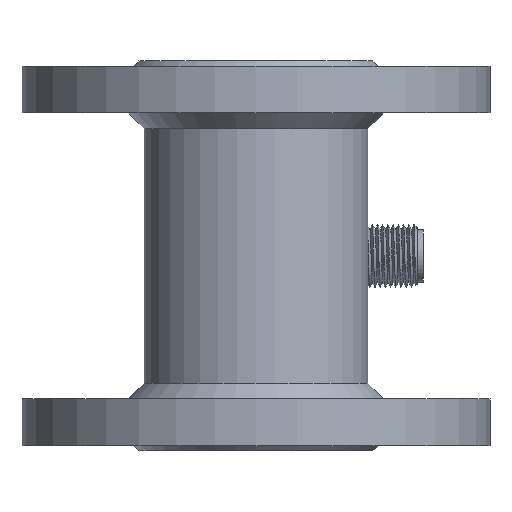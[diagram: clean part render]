
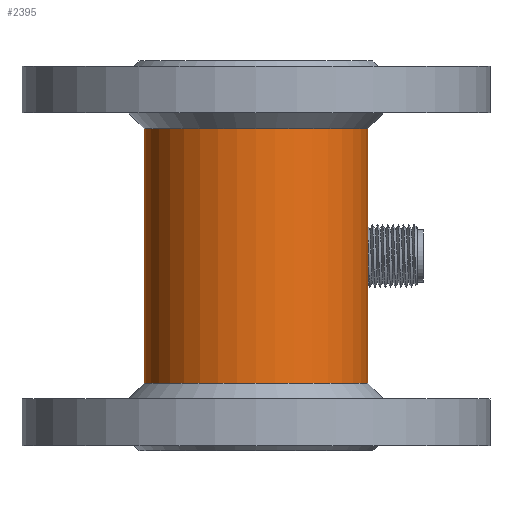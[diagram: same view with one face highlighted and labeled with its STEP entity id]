
A CAD part, front view. The second image highlights one B-rep face of the part: STEP entity #2395.
In plain terms, the highlighted cylindrical face has radius 21.5 mm (diameter 43 mm), a full revolution.
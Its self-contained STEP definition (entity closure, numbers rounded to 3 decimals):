
#1645=CYLINDRICAL_SURFACE('',#8577,21.5);
#2194=B_SPLINE_CURVE_WITH_KNOTS('',3,(#11390,#11391,#11392,#11393,#11394,
#11395,#11396,#11397,#11398,#11399),.UNSPECIFIED.,.F.,.F.,(4,2,2,2,4),(0.,
0.25,0.5,0.75,1.),.UNSPECIFIED.);
#2195=B_SPLINE_CURVE_WITH_KNOTS('',3,(#11401,#11402,#11403,#11404,#11405,
#11406,#11407,#11408,#11409,#11410),.UNSPECIFIED.,.F.,.F.,(4,2,2,2,4),(0.,
0.25,0.5,0.75,1.),.UNSPECIFIED.);
#2395=ADVANCED_FACE('',(#3752,#3753,#3754),#1645,.T.);
#2998=LINE('',#11384,#3374);
#2999=LINE('',#11388,#3375);
#3374=VECTOR('',#9386,1.);
#3375=VECTOR('',#9389,1.);
#3752=FACE_BOUND('',#3997,.T.);
#3753=FACE_BOUND('',#3998,.T.);
#3754=FACE_BOUND('',#3999,.T.);
#3997=EDGE_LOOP('',(#4590));
#3998=EDGE_LOOP('',(#4591));
#3999=EDGE_LOOP('',(#4592,#4593,#4594,#4595));
#4590=ORIENTED_EDGE('',*,*,#7198,.T.);
#4591=ORIENTED_EDGE('',*,*,#7199,.T.);
#4592=ORIENTED_EDGE('',*,*,#7193,.F.);
#4593=ORIENTED_EDGE('',*,*,#7197,.F.);
#4594=ORIENTED_EDGE('',*,*,#7195,.F.);
#4595=ORIENTED_EDGE('',*,*,#7196,.F.);
#6540=VERTEX_POINT('',#11382);
#6541=VERTEX_POINT('',#11383);
#6542=VERTEX_POINT('',#11385);
#6543=VERTEX_POINT('',#11387);
#6544=VERTEX_POINT('',#11413);
#6545=VERTEX_POINT('',#11415);
#7193=EDGE_CURVE('',#6540,#6542,#2998,.T.);
#7195=EDGE_CURVE('',#6543,#6541,#2999,.T.);
#7196=EDGE_CURVE('',#6542,#6543,#2194,.T.);
#7197=EDGE_CURVE('',#6541,#6540,#2195,.T.);
#7198=EDGE_CURVE('',#6544,#6544,#8173,.T.);
#7199=EDGE_CURVE('',#6545,#6545,#8174,.T.);
#8173=CIRCLE('',#8575,21.5);
#8174=CIRCLE('',#8576,21.5);
#8575=AXIS2_PLACEMENT_3D('',#11412,#9396,#9397);
#8576=AXIS2_PLACEMENT_3D('',#11414,#9398,#9399);
#8577=AXIS2_PLACEMENT_3D('',#11416,#9400,#9401);
#9386=DIRECTION('',(0.,0.,-1.));
#9389=DIRECTION('',(0.,0.,1.));
#9396=DIRECTION('',(0.,0.,1.));
#9397=DIRECTION('',(-1.,0.,0.));
#9398=DIRECTION('',(0.,0.,-1.));
#9399=DIRECTION('',(1.,0.,0.));
#9400=DIRECTION('',(0.,0.,-1.));
#9401=DIRECTION('',(1.,0.,0.));
#11382=CARTESIAN_POINT('',(9.055,19.5,0.6));
#11383=CARTESIAN_POINT('',(-9.055,19.5,0.633));
#11384=CARTESIAN_POINT('',(9.055,19.5,-8.));
#11385=CARTESIAN_POINT('',(9.055,19.5,-16.6));
#11387=CARTESIAN_POINT('',(-9.055,19.5,-16.633));
#11388=CARTESIAN_POINT('',(-9.055,19.5,-8.));
#11390=CARTESIAN_POINT('',(9.055,19.5,-16.6));
#11391=CARTESIAN_POINT('',(7.997,19.991,-17.977));
#11392=CARTESIAN_POINT('',(6.691,20.495,-19.114));
#11393=CARTESIAN_POINT('',(3.591,21.258,-20.756));
#11394=CARTESIAN_POINT('',(1.815,21.497,-21.221));
#11395=CARTESIAN_POINT('',(-1.752,21.503,-21.235));
#11396=CARTESIAN_POINT('',(-3.551,21.265,-20.778));
#11397=CARTESIAN_POINT('',(-6.659,20.505,-19.156));
#11398=CARTESIAN_POINT('',(-7.992,19.994,-18.008));
#11399=CARTESIAN_POINT('',(-9.055,19.5,-16.633));
#11401=CARTESIAN_POINT('',(-9.055,19.5,0.633));
#11402=CARTESIAN_POINT('',(-7.993,19.993,2.006));
#11403=CARTESIAN_POINT('',(-6.683,20.497,3.138));
#11404=CARTESIAN_POINT('',(-3.577,21.261,4.769));
#11405=CARTESIAN_POINT('',(-1.8,21.499,5.227));
#11406=CARTESIAN_POINT('',(1.768,21.501,5.228));
#11407=CARTESIAN_POINT('',(3.564,21.263,4.765));
#11408=CARTESIAN_POINT('',(6.666,20.503,3.132));
#11409=CARTESIAN_POINT('',(7.996,19.992,1.978));
#11410=CARTESIAN_POINT('',(9.055,19.5,0.6));
#11412=CARTESIAN_POINT('',(0.,0.,-32.5));
#11413=CARTESIAN_POINT('',(-21.5,0.,-32.5));
#11414=CARTESIAN_POINT('',(0.,0.,16.5));
#11415=CARTESIAN_POINT('',(21.5,0.,16.5));
#11416=CARTESIAN_POINT('',(0.,0.,48.5));
